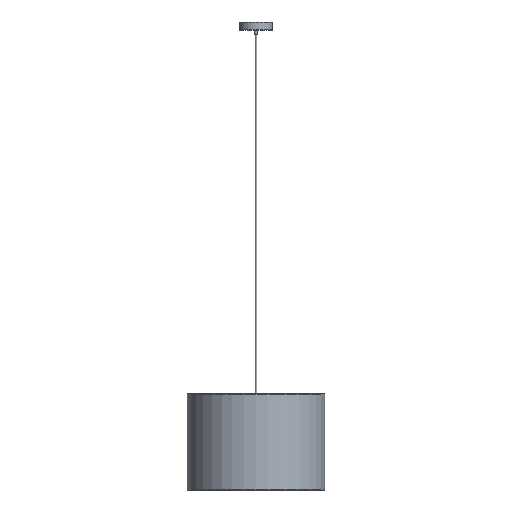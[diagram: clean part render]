
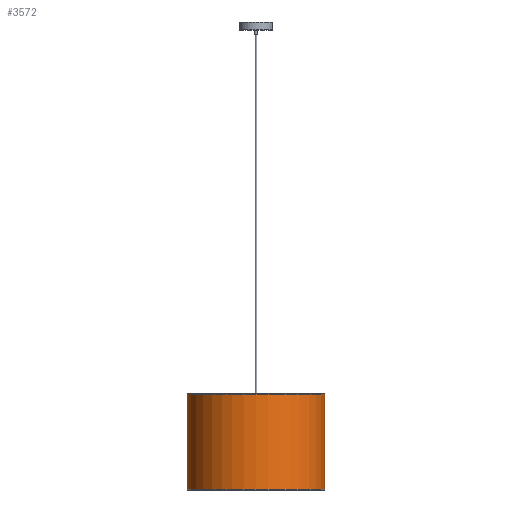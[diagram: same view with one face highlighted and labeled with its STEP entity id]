
A CAD part, front view. The second image highlights one B-rep face of the part: STEP entity #3572.
In plain terms, the highlighted cylindrical face has radius 250 mm (diameter 500 mm), a full revolution.
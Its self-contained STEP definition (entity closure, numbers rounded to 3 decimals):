
#100=CYLINDRICAL_SURFACE('',#3891,250.);
#454=LINE('',#5614,#621);
#621=VECTOR('',#4366,250.);
#798=FACE_OUTER_BOUND('',#1035,.T.);
#1035=EDGE_LOOP('',(#2430,#2431,#2432,#2433));
#1261=CIRCLE('',#3888,250.);
#1263=CIRCLE('',#3892,250.);
#1461=VERTEX_POINT('',#5606);
#1463=VERTEX_POINT('',#5613);
#1836=EDGE_CURVE('',#1461,#1461,#1261,.T.);
#1838=EDGE_CURVE('',#1461,#1463,#454,.T.);
#1839=EDGE_CURVE('',#1463,#1463,#1263,.T.);
#2430=ORIENTED_EDGE('',*,*,#1836,.F.);
#2431=ORIENTED_EDGE('',*,*,#1838,.T.);
#2432=ORIENTED_EDGE('',*,*,#1839,.F.);
#2433=ORIENTED_EDGE('',*,*,#1838,.F.);
#3572=ADVANCED_FACE('',(#798),#100,.T.);
#3888=AXIS2_PLACEMENT_3D('',#5608,#4358,#4359);
#3891=AXIS2_PLACEMENT_3D('',#5612,#4364,#4365);
#3892=AXIS2_PLACEMENT_3D('',#5615,#4367,#4368);
#4358=DIRECTION('center_axis',(0.,0.,1.));
#4359=DIRECTION('ref_axis',(1.,0.,0.));
#4364=DIRECTION('center_axis',(0.,0.,1.));
#4365=DIRECTION('ref_axis',(1.,0.,0.));
#4366=DIRECTION('',(0.,0.,-1.));
#4367=DIRECTION('center_axis',(0.,0.,-1.));
#4368=DIRECTION('ref_axis',(1.,0.,0.));
#5606=CARTESIAN_POINT('',(-250.,0.,348.));
#5608=CARTESIAN_POINT('Origin',(0.,0.,348.));
#5612=CARTESIAN_POINT('Origin',(0.,0.,0.));
#5613=CARTESIAN_POINT('',(-250.,0.,2.));
#5614=CARTESIAN_POINT('',(-250.,0.,0.));
#5615=CARTESIAN_POINT('Origin',(0.,0.,2.));
